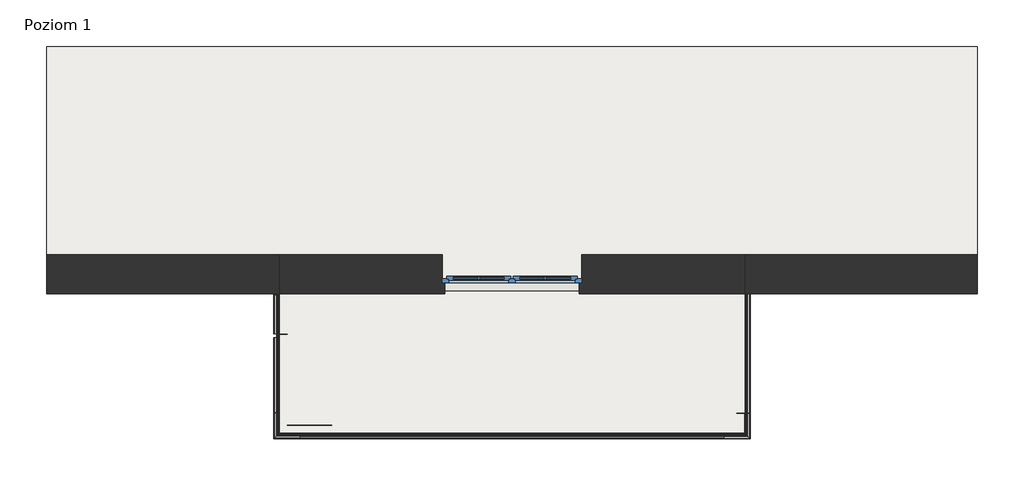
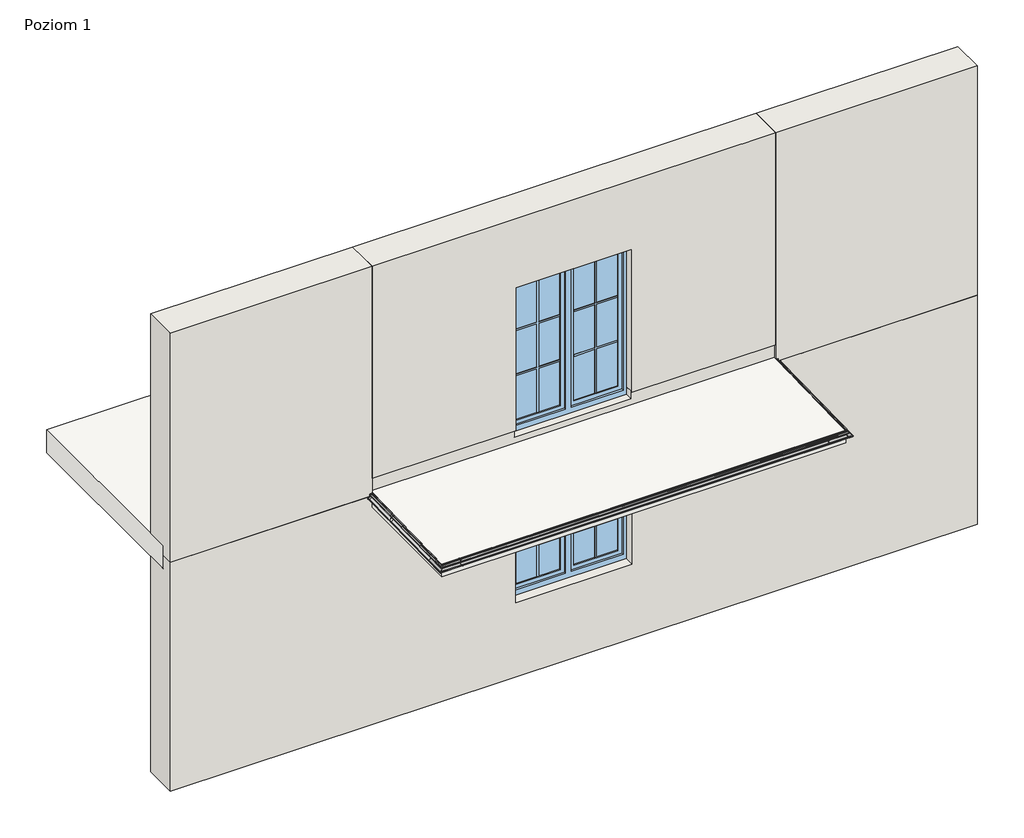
# One storey, part 1 of 3: 13 proxies, 5 walls, 2 slabs, 2 windows.
"""IFC4 building model written with IfcOpenShell, lengths in millimetres."""

from ifc_helpers import new_model, si_unit, origin, place, context, project, spatial, faceted_brep, transform, mapped, element, save
from components import generic_models_8ea34007, generic_models_704fdf56, generic_models_589676a0, generic_models_c5aa8d74, k20r_cac1ec52, k20r_cabac76b, k20r_6649cff2, k20r_2c831959, k20r_9e352cdf, k20r_fd4bf74c, rynna_alu_r50_rynna_alu_r50_503b632a, rynna_alu_r50_rynna_alu_r50_e24e8979, rynna_alu_r50_rynna_alu_r50_4b12a77f, rynna_alu_r50_rynna_alu_r50_32d18274, window_150x150_51b7f79a, window_150x200_12b14935

model = new_model("IFC4")

# Units and contexts
model_context = context("Model", 3, world=origin())
ifc_project = project(units=[si_unit("LENGTHUNIT", "METRE", prefix="MILLI")], contexts=[model_context])

# Site, building, storey
site = spatial("IfcSite", under=ifc_project)
building = spatial("IfcBuilding", under=site)
storey = spatial("IfcBuildingStorey", under=building, Name="Poziom 1", Elevation=0.0)

# Proxies
placement = place(None, origin())
generic_models_shape = generic_models_8ea34007(model_context)
element("IfcBuildingElementProxy", 1, Name="Odbojnik przyścienny R50 : Odbojnik przyścienny R50", ObjectType="Odbojnik przyścienny R50 : Odbojnik przyścienny R50", at=placement, inside=storey, context=model_context, shape_type="MappedRepresentation", body=[
    mapped(generic_models_shape, transform((-103570.0646364, 32171.6943764, -134.1430053), x_axis=(0.0, 0.9998020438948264, 0.019896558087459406), y_axis=(-1.0, 0.0, 0.0), z_axis=(0.0, -0.0198965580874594, 0.9998020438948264))),
])
generic_models_2_shape = generic_models_704fdf56(model_context)
element("IfcBuildingElementProxy", 2, Name="Odbojnik przyścienny R50 : Odbojnik przyścienny R50", ObjectType="Odbojnik przyścienny R50 : Odbojnik przyścienny R50", at=placement, inside=storey, context=model_context, shape_type="MappedRepresentation", body=[
    mapped(generic_models_2_shape, transform((-108692.8258516, 32163.1474714, -134.3130929), x_axis=(0.0, 0.9998020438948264, 0.019896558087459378), y_axis=(-1.0, 0.0, 0.0), z_axis=(0.0, -0.0198965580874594, 0.9998020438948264))),
])
generic_models_3_shape = generic_models_589676a0(model_context)
element("IfcBuildingElementProxy", 3, Name="Odbojnik - OPK20R : Odbojnik - OPK20R", ObjectType="Odbojnik - OPK20R : Odbojnik - OPK20R", at=placement, inside=storey, context=model_context, shape_type="MappedRepresentation", body=[
    mapped(generic_models_3_shape, transform((-103479.0910619, 32167.4956653, -124.1975688), x_axis=(0.0, -0.9998020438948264, -0.019896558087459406), y_axis=(1.0, 0.0, 0.0), z_axis=(0.0, -0.0198965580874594, 0.9998020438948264))),
])
generic_models_4_shape = generic_models_c5aa8d74(model_context)
element("IfcBuildingElementProxy", 4, Name="Odbojnik - OPK20R : Odbojnik - OPK20R", ObjectType="Odbojnik - OPK20R : Odbojnik - OPK20R", at=placement, inside=storey, context=model_context, shape_type="MappedRepresentation", body=[
    mapped(generic_models_4_shape, transform((-108783.7994261, 32158.9487602, -124.3676564), x_axis=(0.0, -0.9998020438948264, -0.019896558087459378), y_axis=(1.0, 0.0, 0.0), z_axis=(0.0, -0.0198965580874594, 0.9998020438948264))),
])
k20r_shape = k20r_cac1ec52(model_context)
k20r_2_shape = k20r_cabac76b(model_context)
element("IfcBuildingElementProxy", 5, Name="K20R Profil okapowy prosty z rynną : K20R", ObjectType="K20R Profil okapowy prosty z rynną : K20R", at=placement, inside=storey, context=model_context, shape_type="MappedRepresentation", body=[
    mapped(k20r_shape, transform((-108631.445244, 30669.572329, -114.0000018), x_axis=(0.9999997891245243, -0.000649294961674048, -1.2921292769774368e-05), y_axis=(0.0006494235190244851, 0.9998018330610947, 0.019896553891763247), z_axis=(0.0, -0.0198965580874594, 0.9998020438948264))),
    mapped(k20r_2_shape, transform((-108631.445244, 30669.572329, -114.0000018), x_axis=(0.9999997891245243, -0.000649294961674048, -1.2921292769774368e-05), y_axis=(0.0006494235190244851, 0.9998018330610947, 0.019896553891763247), z_axis=(0.0, -0.0198965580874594, 0.9998020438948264))),
])
k20r_3_shape = k20r_6649cff2(model_context)
element("IfcBuildingElementProxy", 6, Name="K20R Profil okapowy prosty z rynną : K20R", ObjectType="K20R Profil okapowy prosty z rynną : K20R", at=placement, inside=storey, context=model_context, shape_type="MappedRepresentation", body=[
    mapped(k20r_3_shape, transform((-103631.445244, 30886.2823495, -109.6873646), x_axis=(0.0, 0.9998020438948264, 0.019896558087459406), y_axis=(-1.0, 0.0, 0.0), z_axis=(0.0, -0.0198965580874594, 0.9998020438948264))),
])
k20r_4_shape = k20r_2c831959(model_context)
element("IfcBuildingElementProxy", 7, Name="K20R Profil okapowy prosty z rynną : K20R", ObjectType="K20R Profil okapowy prosty z rynną : K20R", at=placement, inside=storey, context=model_context, shape_type="MappedRepresentation", body=[
    mapped(k20r_4_shape, transform((-108631.445244, 30889.528825, -109.6227581), x_axis=(0.0, 0.9998020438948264, 0.019896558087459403), y_axis=(-1.0, 0.0, 0.0), z_axis=(0.0, -0.0198965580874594, 0.9998020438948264))),
])
k20r_5_shape = k20r_9e352cdf(model_context)
element("IfcBuildingElementProxy", 8, Name="K20R Profil okapowy prosty z rynną : K20R", ObjectType="K20R Profil okapowy prosty z rynną : K20R", at=placement, inside=storey, context=model_context, shape_type="MappedRepresentation", body=[
    mapped(k20r_5_shape, transform((-108631.445244, 31736.0364936, -92.7768344), x_axis=(0.0, 0.9998020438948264, 0.019896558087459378), y_axis=(-1.0, 0.0, 0.0), z_axis=(0.0, -0.0198965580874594, 0.9998020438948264))),
])
k20r_6_shape = k20r_fd4bf74c(model_context)
element("IfcBuildingElementProxy", 9, Name="K20R Profil okapowy prosty z rynną : K20R", ObjectType="K20R Profil okapowy prosty z rynną : K20R", at=placement, inside=storey, context=model_context, shape_type="MappedRepresentation", body=[
    mapped(k20r_6_shape, transform((-108631.445244, 31694.0443319, -93.6124993), x_axis=(0.0, 0.9998020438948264, 0.019896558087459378), y_axis=(-1.0, 0.0, 0.0), z_axis=(0.0, -0.0198965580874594, 0.9998020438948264))),
])
rynna_alu_r50_rynna_alu_r50_shape = rynna_alu_r50_rynna_alu_r50_503b632a(model_context)
element("IfcBuildingElementProxy", 10, Name="Rynna ALU R50 : Rynna ALU R50", ObjectType="Rynna ALU R50 : Rynna ALU R50", at=placement, inside=storey, context=model_context, shape_type="MappedRepresentation", body=[
    mapped(rynna_alu_r50_rynna_alu_r50_shape, transform((-106131.5204458, 30662.2799055, -120.5523931), x_axis=(0.9999997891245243, -0.000649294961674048, -1.2921292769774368e-05), y_axis=(0.0006494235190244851, 0.9998018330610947, 0.019896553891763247), z_axis=(0.0, -0.0198965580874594, 0.9998020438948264))),
])
rynna_alu_r50_rynna_alu_r50_2_shape = rynna_alu_r50_rynna_alu_r50_e24e8979(model_context)
element("IfcBuildingElementProxy", 11, Name="Rynna ALU R50 : Rynna ALU R50", ObjectType="Rynna ALU R50 : Rynna ALU R50", at=placement, inside=storey, context=model_context, shape_type="MappedRepresentation", body=[
    mapped(rynna_alu_r50_rynna_alu_r50_2_shape, transform((-103625.6474056, 31528.0182658, -103.323769), x_axis=(0.0, 0.9998020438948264, 0.019896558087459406), y_axis=(-1.0, 0.0, 0.0), z_axis=(0.0, -0.0198965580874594, 0.9998020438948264))),
])
rynna_alu_r50_rynna_alu_r50_3_shape = rynna_alu_r50_rynna_alu_r50_4b12a77f(model_context)
element("IfcBuildingElementProxy", 12, Name="Rynna ALU R50 : Rynna ALU R50", ObjectType="Rynna ALU R50 : Rynna ALU R50", at=placement, inside=storey, context=model_context, shape_type="MappedRepresentation", body=[
    mapped(rynna_alu_r50_rynna_alu_r50_3_shape, transform((-108637.2430824, 31291.9140358, -108.0223606), x_axis=(0.0, 0.9998020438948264, 0.019896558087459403), y_axis=(-1.0, 0.0, 0.0), z_axis=(0.0, -0.0198965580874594, 0.9998020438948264))),
])
rynna_alu_r50_rynna_alu_r50_4_shape = rynna_alu_r50_rynna_alu_r50_32d18274(model_context)
element("IfcBuildingElementProxy", 13, Name="Rynna ALU R50 : Rynna ALU R50", ObjectType="Rynna ALU R50 : Rynna ALU R50", at=placement, inside=storey, context=model_context, shape_type="MappedRepresentation", body=[
    mapped(rynna_alu_r50_rynna_alu_r50_4_shape, transform((-108637.2430824, 31948.6218852, -94.9535477), x_axis=(0.0, 0.9998020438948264, 0.019896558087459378), y_axis=(-1.0, 0.0, 0.0), z_axis=(0.0, -0.0198965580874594, 0.9998020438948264))),
])

# Slabs
element("IfcSlab", 14, ObjectType="Balkon - posadzka żywiczna cienkowarstwowa", at=placement, inside=storey, context=model_context, shape_type="Brep", body=[
    faceted_brep([(-108631.5881172, 30669.5724217, -277.2), (-108631.5881172, 32169.5724217, -277.2), (-108631.5881172, 32277.5724217, -277.2), (-103631.5881172, 32277.5724217, -277.2), (-103631.5881172, 32169.5724217, -277.2), (-103631.5881172, 30669.5724217, -277.2), (-108631.5881172, 30669.5724217, -114.0), (-108631.5881172, 32199.5724217, -83.5522388), (-108631.5881172, 32277.5724217, -82.0), (-108631.5881172, 32277.5724217, -125.0), (-103631.5881172, 32277.5724217, -82.0), (-103631.5881172, 32277.5724217, -125.0), (-103631.5881172, 30669.5724217, -114.0), (-103631.5881172, 32199.5724217, -83.5522388)], [[[0, 1, 2, 3, 4, 5]], [[2, 1, 0, 6, 7, 8, 9]], [[3, 2, 9, 8, 10, 11]], [[0, 5, 12, 6]], [[5, 4, 3, 11, 10, 13, 12]], [[12, 13, 10, 8, 7, 6]]]),
])
element("IfcSlab", 15, ObjectType="Strop", at=placement, inside=storey, context=model_context, shape_type="Brep", body=[
    faceted_brep([(-101131.5881172, 32324.5724217, -300.0), (-111131.5881172, 32324.5724217, -300.0), (-111131.5881172, 32589.5724217, -300.0), (-111131.5881172, 34824.5724217, -300.0), (-101131.5881172, 34824.5724217, -300.0), (-101131.5881172, 32589.5724217, -300.0), (-101131.5881172, 32324.5724217, 0.0), (-101131.5881172, 32589.5724217, 0.0), (-101131.5881172, 34824.5724217, 0.0), (-111131.5881172, 34824.5724217, 0.0), (-111131.5881172, 32589.5724217, 0.0), (-111131.5881172, 32324.5724217, 0.0), (-108631.5881172, 32324.5724217, 0.0), (-106881.5881172, 32324.5724217, 0.0), (-105381.5881172, 32324.5724217, 0.0), (-103631.5881172, 32324.5724217, 0.0), (-101131.5881172, 32324.5724217, -125.0), (-111131.5881172, 32324.5724217, -125.0)], [[[0, 1, 2, 3, 4, 5]], [[6, 7, 8, 9, 10, 11, 12, 13, 14, 15]], [[1, 0, 16, 6, 15, 14, 13, 12, 11, 17]], [[3, 2, 1, 17, 11, 10, 9]], [[4, 3, 9, 8]], [[0, 5, 4, 8, 7, 6, 16]]]),
])

# Walls
element("IfcWall", 16, ObjectType="Porotherm P+W 25 + o15 + t", at=placement, inside=storey, context=model_context, shape_type="Brep", body=[
    faceted_brep([(-111131.5881172, 32169.5724217, -3125.0), (-101131.5881172, 32169.5724217, -3125.0), (-101131.5881172, 32169.5724217, -125.0), (-103631.5881172, 32169.5724217, -125.0), (-103631.5881172, 32169.5724217, -277.2), (-108631.5881172, 32169.5724217, -277.2), (-108631.5881172, 32169.5724217, -125.0), (-111131.5881172, 32169.5724217, -125.0), (-105411.5881172, 32169.5724217, -680.0), (-105411.5881172, 32169.5724217, -2150.0), (-106851.5881172, 32169.5724217, -2150.0), (-106851.5881172, 32169.5724217, -680.0), (-101131.5881172, 32589.5724217, -3125.0), (-111131.5881172, 32589.5724217, -3125.0), (-111131.5881172, 32589.5724217, -300.0), (-101131.5881172, 32589.5724217, -300.0), (-105381.5881172, 32589.5724217, -2150.0), (-105381.5881172, 32589.5724217, -650.0), (-106881.5881172, 32589.5724217, -650.0), (-106881.5881172, 32589.5724217, -2150.0), (-101131.5881172, 32324.5724217, -300.0), (-101131.5881172, 32324.5724217, -125.0), (-103631.5881172, 32324.5724217, -125.0), (-108631.5881172, 32324.5724217, -125.0), (-111131.5881172, 32324.5724217, -125.0), (-108631.5881172, 32277.5724217, -125.0), (-103631.5881172, 32277.5724217, -125.0), (-111131.5881172, 32324.5724217, -300.0), (-105381.5881172, 32289.5724217, -650.0), (-105381.5881172, 32289.5724217, -2150.0), (-105411.5881172, 32289.5724217, -680.0), (-105411.5881172, 32289.5724217, -2150.0), (-103631.5881172, 32277.5724217, -277.2), (-108631.5881172, 32277.5724217, -277.2), (-106881.5881172, 32289.5724217, -650.0), (-106881.5881172, 32289.5724217, -2150.0), (-106851.5881172, 32289.5724217, -2150.0), (-106851.5881172, 32289.5724217, -680.0)], [[[0, 1, 2, 3, 4, 5, 6, 7], [8, 9, 10, 11]], [[12, 13, 14, 15], [16, 17, 18, 19]], [[1, 0, 13, 12]], [[2, 1, 12, 15, 20, 21]], [[2, 21, 22, 23, 24, 7, 6, 25, 26, 3]], [[0, 7, 24, 27, 14, 13]], [[28, 17, 16, 29]], [[8, 30, 31, 9]], [[27, 20, 15, 14]], [[20, 27, 24, 23, 22, 21]], [[32, 33, 5, 4]], [[5, 33, 25, 6]], [[33, 32, 26, 25]], [[32, 4, 3, 26]], [[17, 28, 34, 18]], [[29, 16, 19, 35, 36, 10, 9, 31]], [[34, 28, 29, 31, 30, 37, 36, 35]], [[34, 35, 19, 18]], [[30, 8, 11, 37]], [[10, 36, 37, 11]]]),
])
element("IfcWall", 17, ObjectType="Porotherm P+W 25 + o15 + t", at=placement, inside=storey, context=model_context, shape_type="Brep", body=[
    faceted_brep([(-111131.5881172, 32169.5724217, -125.0), (-108631.5881172, 32169.5724217, -125.0), (-108631.5881172, 32169.5724217, 100.0), (-108631.5881172, 32169.5724217, 2875.0), (-111131.5881172, 32169.5724217, 2875.0), (-111131.5881172, 32589.5724217, 2875.0), (-108631.5881172, 32589.5724217, 2875.0), (-108631.5881172, 32589.5724217, 100.0), (-108631.5881172, 32589.5724217, 0.0), (-111131.5881172, 32589.5724217, 0.0), (-111131.5881172, 32324.5724217, -125.0), (-108631.5881172, 32324.5724217, -125.0), (-108631.5881172, 32277.5724217, -125.0), (-111131.5881172, 32324.5724217, 0.0), (-108631.5881172, 32324.5724217, 0.0)], [[[0, 1, 2, 3, 4]], [[5, 6, 7, 8, 9]], [[1, 0, 10, 11, 12]], [[4, 3, 6, 5]], [[0, 4, 5, 9, 13, 10]], [[14, 13, 9, 8]], [[13, 14, 11, 10]], [[6, 3, 2, 1, 12, 11, 14, 8, 7]]]),
])
element("IfcWall", 18, ObjectType="Porotherm P+W 25 + o15 + t", at=placement, inside=storey, context=model_context, shape_type="Brep", body=[
    faceted_brep([(-103631.5881172, 32169.5724217, -125.0), (-101131.5881172, 32169.5724217, -125.0), (-101131.5881172, 32169.5724217, 2875.0), (-103631.5881172, 32169.5724217, 2875.0), (-103631.5881172, 32169.5724217, 100.0), (-103631.5881172, 32589.5724217, 2875.0), (-101131.5881172, 32589.5724217, 2875.0), (-101131.5881172, 32589.5724217, 0.0), (-103631.5881172, 32589.5724217, 0.0), (-103631.5881172, 32589.5724217, 100.0), (-103631.5881172, 32277.5724217, -125.0), (-103631.5881172, 32324.5724217, -125.0), (-101131.5881172, 32324.5724217, -125.0), (-101131.5881172, 32324.5724217, 0.0), (-103631.5881172, 32324.5724217, 0.0)], [[[0, 1, 2, 3, 4]], [[5, 6, 7, 8, 9]], [[1, 0, 10, 11, 12]], [[2, 1, 12, 13, 7, 6]], [[3, 2, 6, 5]], [[13, 14, 8, 7]], [[14, 13, 12, 11]], [[3, 5, 9, 8, 14, 11, 10, 0, 4]]]),
])
element("IfcWall", 19, ObjectType="Porotherm P+W 25 + o12 + t", at=placement, inside=storey, context=model_context, shape_type="Brep", body=[
    faceted_brep([(-103631.5881172, 32199.5724217, -83.5522388), (-103631.5881172, 32199.5724217, 100.0), (-105411.5881172, 32199.5724217, 100.0), (-105411.5881172, 32199.5724217, 0.0), (-106851.5881172, 32199.5724217, 0.0), (-106851.5881172, 32199.5724217, 100.0), (-108631.5881172, 32199.5724217, 100.0), (-108631.5881172, 32199.5724217, -83.5522388), (-105381.5881172, 32589.5724217, 100.0), (-103631.5881172, 32589.5724217, 100.0), (-103631.5881172, 32589.5724217, 0.0), (-105381.5881172, 32589.5724217, 0.0), (-108631.5881172, 32589.5724217, 100.0), (-106881.5881172, 32589.5724217, 100.0), (-106881.5881172, 32589.5724217, 0.0), (-108631.5881172, 32589.5724217, 0.0), (-103631.5881172, 32277.5724217, -125.0), (-108631.5881172, 32277.5724217, -125.0), (-108631.5881172, 32324.5724217, -125.0), (-103631.5881172, 32324.5724217, -125.0), (-103631.5881172, 32277.5724217, -82.0), (-103631.5881172, 32324.5724217, 0.0), (-105381.5881172, 32289.5724217, 100.0), (-105411.5881172, 32289.5724217, 100.0), (-106851.5881172, 32289.5724217, 100.0), (-106881.5881172, 32289.5724217, 100.0), (-108631.5881172, 32324.5724217, 0.0), (-108631.5881172, 32277.5724217, -82.0), (-105381.5881172, 32324.5724217, 0.0), (-106881.5881172, 32324.5724217, 0.0), (-106881.5881172, 32289.5724217, 0.0), (-106851.5881172, 32289.5724217, 0.0), (-105411.5881172, 32289.5724217, 0.0), (-105381.5881172, 32289.5724217, 0.0)], [[[0, 1, 2, 3, 4, 5, 6, 7]], [[8, 9, 10, 11]], [[12, 13, 14, 15]], [[16, 17, 18, 19]], [[9, 1, 0, 20, 16, 19, 21, 10]], [[1, 9, 8, 22, 23, 2]], [[12, 6, 5, 24, 25, 13]], [[6, 12, 15, 26, 18, 17, 27, 7]], [[20, 27, 17, 16]], [[27, 20, 0, 7]], [[21, 28, 11, 10]], [[29, 26, 15, 14]], [[28, 21, 19, 18, 26, 29]], [[30, 31, 4, 3, 32, 33, 28, 29]], [[31, 30, 25, 24]], [[33, 32, 23, 22]], [[33, 22, 8, 11, 28]], [[25, 30, 29, 14, 13]], [[32, 3, 2, 23]], [[4, 31, 24, 5]]]),
])
element("IfcWall", 20, ObjectType="Porotherm P+W 25 + o15 + t", at=placement, inside=storey, context=model_context, shape_type="Brep", body=[
    faceted_brep([(-103631.5881172, 32169.5724217, 100.0), (-103631.5881172, 32169.5724217, 2875.0), (-108631.5881172, 32169.5724217, 2875.0), (-108631.5881172, 32169.5724217, 100.0), (-106851.5881172, 32169.5724217, 100.0), (-106851.5881172, 32169.5724217, 1970.0), (-105411.5881172, 32169.5724217, 1970.0), (-105411.5881172, 32169.5724217, 100.0), (-103631.5881172, 32589.5724217, 2875.0), (-103631.5881172, 32589.5724217, 100.0), (-105381.5881172, 32589.5724217, 100.0), (-105381.5881172, 32589.5724217, 2000.0), (-106881.5881172, 32589.5724217, 2000.0), (-106881.5881172, 32589.5724217, 100.0), (-108631.5881172, 32589.5724217, 100.0), (-108631.5881172, 32589.5724217, 2875.0), (-108631.5881172, 32199.5724217, 100.0), (-106881.5881172, 32289.5724217, 100.0), (-106851.5881172, 32289.5724217, 100.0), (-106851.5881172, 32199.5724217, 100.0), (-103631.5881172, 32199.5724217, 100.0), (-105411.5881172, 32199.5724217, 100.0), (-105411.5881172, 32289.5724217, 100.0), (-105381.5881172, 32289.5724217, 100.0), (-105381.5881172, 32289.5724217, 2000.0), (-105411.5881172, 32289.5724217, 1970.0), (-106881.5881172, 32289.5724217, 2000.0), (-106851.5881172, 32289.5724217, 1970.0)], [[[0, 1, 2, 3, 4, 5, 6, 7]], [[8, 9, 10, 11, 12, 13, 14, 15]], [[3, 16, 14, 13, 17, 18, 19, 4]], [[9, 20, 0, 7, 21, 22, 23, 10]], [[1, 0, 20, 9, 8]], [[2, 1, 8, 15]], [[3, 2, 15, 14, 16]], [[24, 11, 10, 23]], [[6, 25, 22, 21, 7]], [[26, 12, 11, 24]], [[26, 24, 23, 22, 25, 27, 18, 17]], [[12, 26, 17, 13]], [[27, 25, 6, 5]], [[27, 5, 4, 19, 18]]]),
])

# Windows
window_150x150_shape = window_150x150_51b7f79a(model_context)
element("IfcWindow", 21, ObjectType="OKNO_2X_W_SZ : 150x150", at=placement, inside=storey, context=model_context, shape_type="MappedRepresentation", body=[
    mapped(window_150x150_shape, transform((-106131.5881172, 32379.5724217, -3000.0), x_axis=(-1.0, 0.0, 0.0), y_axis=(0.0, -1.0, 0.0), z_axis=(0.0, 0.0, 1.0))),
])
window_150x200_shape = window_150x200_12b14935(model_context)
element("IfcWindow", 22, ObjectType="OKNO_2X_W_SZ : 150x200", at=placement, inside=storey, context=model_context, shape_type="MappedRepresentation", body=[
    mapped(window_150x200_shape, transform((-106131.5881172, 32379.5724217, -850.0), x_axis=(-1.0, 0.0, 0.0), y_axis=(0.0, -1.0, 0.0), z_axis=(0.0, 0.0, 1.0))),
])

save(model, "model.ifc")
